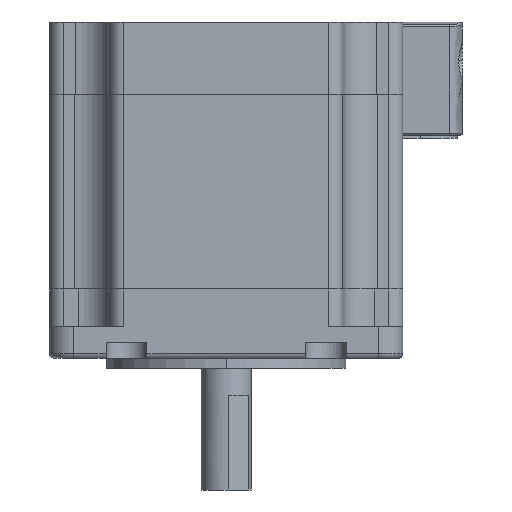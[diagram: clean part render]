
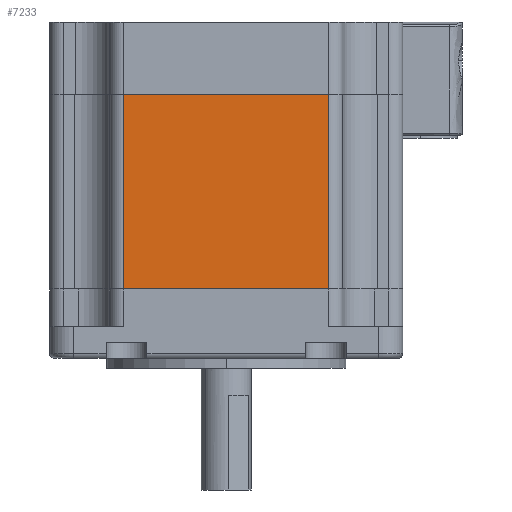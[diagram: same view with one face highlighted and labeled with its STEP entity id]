
A CAD part, left-side view. The second image highlights one B-rep face of the part: STEP entity #7233.
In plain terms, the highlighted planar face has unit normal (-1, 0, 0).
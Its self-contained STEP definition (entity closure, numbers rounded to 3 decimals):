
#205 = VERTEX_POINT ( 'NONE', #6623 ) ;
#570 = LINE ( 'NONE', #1700, #6558 ) ;
#640 = DIRECTION ( 'NONE',  ( 0., 0., 1. ) ) ;
#771 = CARTESIAN_POINT ( 'NONE',  ( -28.1, 16.279, 15.5 ) ) ;
#886 = CARTESIAN_POINT ( 'NONE',  ( -28.1, 16.279, 15.5 ) ) ;
#890 = VERTEX_POINT ( 'NONE', #1298 ) ;
#1150 = AXIS2_PLACEMENT_3D ( 'NONE', #14934, #6311, #640 ) ;
#1176 = VECTOR ( 'NONE', #9456, 1000. ) ;
#1202 = ORIENTED_EDGE ( 'NONE', *, *, #11727, .T. ) ;
#1298 = CARTESIAN_POINT ( 'NONE',  ( -28.1, -16.279, 15.5 ) ) ;
#1518 = EDGE_CURVE ( 'NONE', #890, #11526, #3971, .T. ) ;
#1697 = ORIENTED_EDGE ( 'NONE', *, *, #1518, .F. ) ;
#1700 = CARTESIAN_POINT ( 'NONE',  ( -28.1, 0., 15.5 ) ) ;
#2349 = LINE ( 'NONE', #10801, #17100 ) ;
#3199 = FACE_OUTER_BOUND ( 'NONE', #13369, .T. ) ;
#3971 = LINE ( 'NONE', #18056, #13435 ) ;
#6311 = DIRECTION ( 'NONE',  ( -1., 0., 0. ) ) ;
#6326 = DIRECTION ( 'NONE',  ( 0., 1., 0. ) ) ;
#6558 = VECTOR ( 'NONE', #6326, 1000. ) ;
#6623 = CARTESIAN_POINT ( 'NONE',  ( -28.1, 16.279, -15.5 ) ) ;
#7233 = ADVANCED_FACE ( 'NONE', ( #3199 ), #14761, .T. ) ;
#9456 = DIRECTION ( 'NONE',  ( 0., 0., -1. ) ) ;
#10801 = CARTESIAN_POINT ( 'NONE',  ( -28.1, 0., -15.5 ) ) ;
#10982 = EDGE_CURVE ( 'NONE', #890, #13585, #570, .T. ) ;
#11010 = ORIENTED_EDGE ( 'NONE', *, *, #10982, .T. ) ;
#11075 = DIRECTION ( 'NONE',  ( 0., 1., 0. ) ) ;
#11449 = EDGE_CURVE ( 'NONE', #11526, #205, #2349, .T. ) ;
#11526 = VERTEX_POINT ( 'NONE', #18509 ) ;
#11727 = EDGE_CURVE ( 'NONE', #13585, #205, #13774, .T. ) ;
#13369 = EDGE_LOOP ( 'NONE', ( #14809, #1697, #11010, #1202 ) ) ;
#13435 = VECTOR ( 'NONE', #16565, 1000. ) ;
#13585 = VERTEX_POINT ( 'NONE', #771 ) ;
#13774 = LINE ( 'NONE', #886, #1176 ) ;
#14761 = PLANE ( 'NONE',  #1150 ) ;
#14809 = ORIENTED_EDGE ( 'NONE', *, *, #11449, .F. ) ;
#14934 = CARTESIAN_POINT ( 'NONE',  ( -28.1, 0., 15.5 ) ) ;
#16565 = DIRECTION ( 'NONE',  ( 0., 0., -1. ) ) ;
#17100 = VECTOR ( 'NONE', #11075, 1000. ) ;
#18056 = CARTESIAN_POINT ( 'NONE',  ( -28.1, -16.279, 15.5 ) ) ;
#18509 = CARTESIAN_POINT ( 'NONE',  ( -28.1, -16.279, -15.5 ) ) ;
